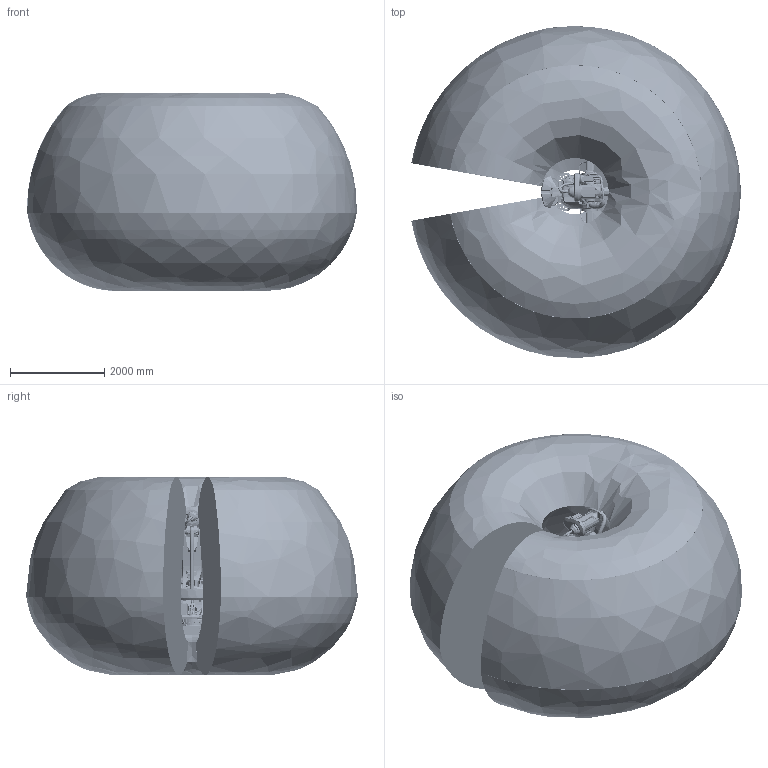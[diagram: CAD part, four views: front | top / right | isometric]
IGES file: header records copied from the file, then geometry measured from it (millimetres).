
Start section: SolidWorks IGES file using analytic representation for surfaces
Global section: file name: C:\Users\SEJAOLS6\OneDrive - ABB\Documents\SAP\7710\7710_Lightweight_models\IRB7710-LID-SW_280kg-350_OC_01_SW_J\IRB7710-LID-SW_280kg_350_OC_01_IGES_J\IRB7710-LID-SW_280kg-350_OC_01_ASM_CAD.igs; native system: SolidWorks 2024; preprocessor: SolidWorks 2024; author: SEJAOLS6; date: 260126.162212; units: millimetre
Bounding box: 6995.68 x 7047.14 x 4198.61 mm (x, y, z)
Surface area: 185528342.2 mm2 (no closed solid volume)
Topology: 0 solids, 0 shells, 10751 faces, 183880 edges, 183736 vertices
Faces by surface type: bspline 6008, revolution 4743
